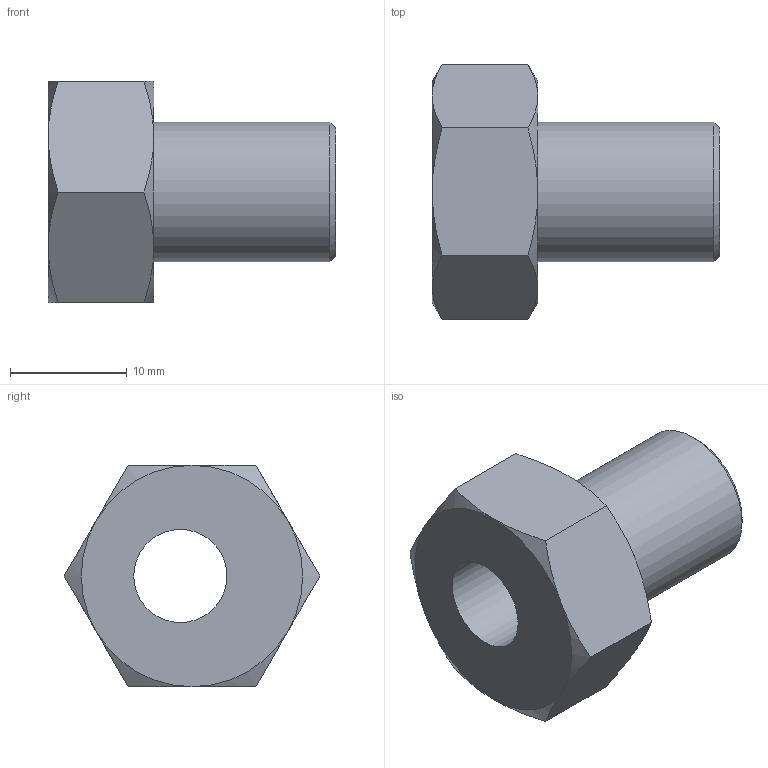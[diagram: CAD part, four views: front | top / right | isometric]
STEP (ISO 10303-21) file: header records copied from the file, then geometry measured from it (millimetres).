
FILE_DESCRIPTION((''),'2;1');
FILE_NAME('C:\Documents and Settings\土屋\My Documents\土屋移動用フォルダ\製品 (図面)\カタログ用3D\リニアガイド\VW\SB\SB3E.stp','2015-02-21T14:15:15',('y'),(''),'Autodesk Inventor 11','Autodesk Inventor 11','');
FILE_SCHEMA(('AUTOMOTIVE_DESIGN { 1 0 10303 214 1 1 1 1 }'));
Length unit declared in the file: millimetre
Products named in the file (1): SB3E
Bounding box: 24.68 x 21.94 x 19 mm (x, y, z)
Volume: 3339 mm3; surface area: 2289.5 mm2
Topology: 1 solids, 1 shells, 24 faces, 50 edges, 29 vertices
Faces by surface type: cone 13, plane 9, cylinder 2
Full cylindrical faces by diameter (mm): 8 x1, 12 x1
Entity records: 615 total; most frequent: CARTESIAN_POINT 149, ORIENTED_EDGE 94, DIRECTION 90, EDGE_CURVE 47, AXIS2_PLACEMENT_3D 42, EDGE_LOOP 30, VERTEX_POINT 29, FACE_OUTER_BOUND 24
